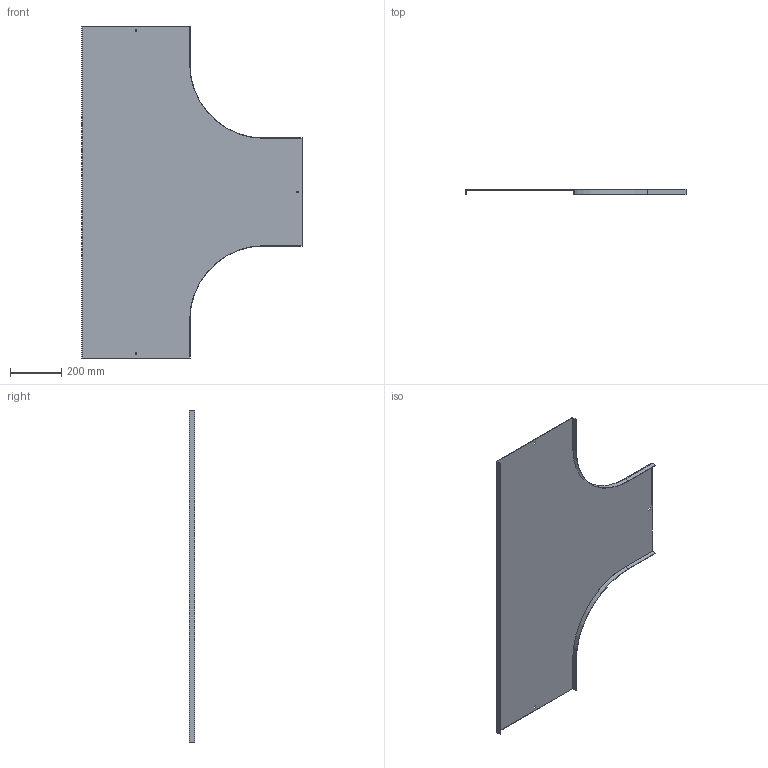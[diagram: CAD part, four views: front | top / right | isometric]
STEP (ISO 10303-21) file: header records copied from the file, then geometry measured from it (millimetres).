
FILE_DESCRIPTION (( 'STEP AP214' ), '1' );
FILE_NAME ('15N3P400.step', '2025-02-21T13:55:45', ( '' ), ( '' ), 'SwSTEP 2.0', 'SolidWorks 2023', '' );
FILE_SCHEMA (( 'AUTOMOTIVE_DESIGN' ));
Length unit declared in the file: millimetre
Products named in the file (1): 15N3P400
Bounding box: 861.5 x 20 x 1300 mm (x, y, z)
Volume: 1234342 mm3; surface area: 1652208.3 mm2
Topology: 1 solids, 1 shells, 34 faces, 96 edges, 64 vertices
Faces by surface type: plane 30, cylinder 4
Entity records: 1123 total; most frequent: CARTESIAN_POINT 195, ORIENTED_EDGE 192, DIRECTION 174, EDGE_CURVE 96, LINE 88, VECTOR 88, VERTEX_POINT 64, AXIS2_PLACEMENT_3D 43
